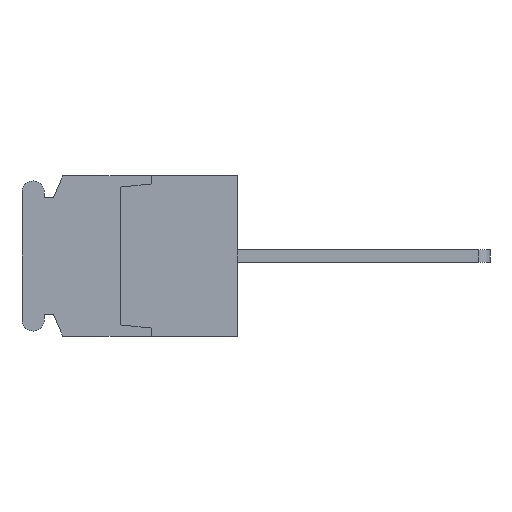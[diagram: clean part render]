
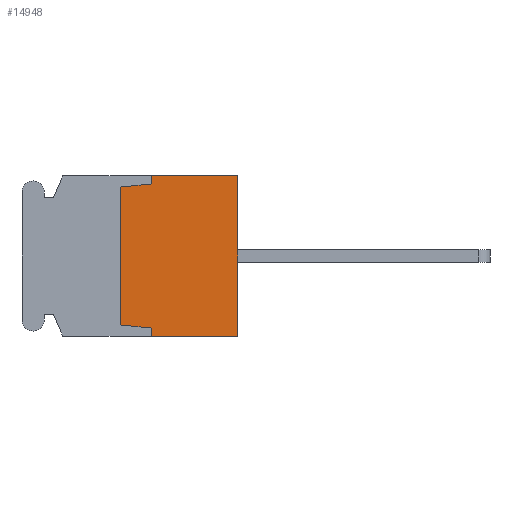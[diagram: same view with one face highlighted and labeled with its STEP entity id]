
A CAD part, left-side view. The second image highlights one B-rep face of the part: STEP entity #14948.
In plain terms, the highlighted planar face has unit normal (-1, 0, 0).
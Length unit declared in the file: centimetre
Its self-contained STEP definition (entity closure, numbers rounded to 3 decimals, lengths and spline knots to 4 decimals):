
#1881=VECTOR('',#18351,1.);
#1882=VECTOR('',#18352,1.);
#1883=VECTOR('',#18353,1.);
#1884=VECTOR('',#18354,1.);
#1885=VECTOR('',#18355,1.);
#1886=VECTOR('',#18356,1.);
#1887=VECTOR('',#18357,1.);
#1888=VECTOR('',#18358,1.);
#3545=LINE('',#23118,#1881);
#3546=LINE('',#23121,#1882);
#3547=LINE('',#23123,#1883);
#3548=LINE('',#23125,#1884);
#3549=LINE('',#23127,#1885);
#3550=LINE('',#23129,#1886);
#3551=LINE('',#23131,#1887);
#3552=LINE('',#23133,#1888);
#5117=VERTEX_POINT('',#23119);
#5118=VERTEX_POINT('',#23120);
#5119=VERTEX_POINT('',#23122);
#5120=VERTEX_POINT('',#23124);
#5121=VERTEX_POINT('',#23126);
#5122=VERTEX_POINT('',#23128);
#5123=VERTEX_POINT('',#23130);
#5124=VERTEX_POINT('',#23132);
#7424=EDGE_CURVE('',#5117,#5118,#3545,.T.);
#7425=EDGE_CURVE('',#5119,#5117,#3546,.T.);
#7426=EDGE_CURVE('',#5120,#5119,#3547,.T.);
#7427=EDGE_CURVE('',#5121,#5120,#3548,.T.);
#7428=EDGE_CURVE('',#5122,#5121,#3549,.T.);
#7429=EDGE_CURVE('',#5123,#5122,#3550,.T.);
#7430=EDGE_CURVE('',#5124,#5123,#3551,.T.);
#7431=EDGE_CURVE('',#5118,#5124,#3552,.T.);
#11268=ORIENTED_EDGE('',*,*,#7424,.F.);
#11269=ORIENTED_EDGE('',*,*,#7425,.F.);
#11270=ORIENTED_EDGE('',*,*,#7426,.F.);
#11271=ORIENTED_EDGE('',*,*,#7427,.F.);
#11272=ORIENTED_EDGE('',*,*,#7428,.F.);
#11273=ORIENTED_EDGE('',*,*,#7429,.F.);
#11274=ORIENTED_EDGE('',*,*,#7430,.F.);
#11275=ORIENTED_EDGE('',*,*,#7431,.F.);
#13152=EDGE_LOOP('',(#11268,#11269,#11270,#11271,#11272,#11273,#11274,#11275));
#14088=FACE_BOUND('',#13152,.T.);
#14948=ADVANCED_FACE('',(#14088),#15632,.F.);
#15632=PLANE('',#25590);
#18350=DIRECTION('',(1.,0.,0.));
#18351=DIRECTION('',(0.,0.,-1.));
#18352=DIRECTION('',(0.,-1.,0.));
#18353=DIRECTION('',(0.,0.,1.));
#18354=DIRECTION('',(0.,-0.995,0.1));
#18355=DIRECTION('',(0.,0.,1.));
#18356=DIRECTION('',(0.,0.995,0.1));
#18357=DIRECTION('',(0.,0.,1.));
#18358=DIRECTION('',(0.,1.,0.));
#23117=CARTESIAN_POINT('',(-1.07,0.4626,0.));
#23118=CARTESIAN_POINT('',(-1.07,0.,0.65));
#23119=CARTESIAN_POINT('',(-1.07,0.,0.65));
#23120=CARTESIAN_POINT('',(-1.07,0.,-0.65));
#23121=CARTESIAN_POINT('',(-1.07,0.7,0.65));
#23122=CARTESIAN_POINT('',(-1.07,0.7,0.65));
#23123=CARTESIAN_POINT('',(-1.07,0.7,0.585));
#23124=CARTESIAN_POINT('',(-1.07,0.7,0.585));
#23125=CARTESIAN_POINT('',(-1.07,0.95,0.56));
#23126=CARTESIAN_POINT('',(-1.07,0.95,0.56));
#23127=CARTESIAN_POINT('',(-1.07,0.95,-0.56));
#23128=CARTESIAN_POINT('',(-1.07,0.95,-0.56));
#23129=CARTESIAN_POINT('',(-1.07,0.7,-0.585));
#23130=CARTESIAN_POINT('',(-1.07,0.7,-0.585));
#23131=CARTESIAN_POINT('',(-1.07,0.7,-0.65));
#23132=CARTESIAN_POINT('',(-1.07,0.7,-0.65));
#23133=CARTESIAN_POINT('',(-1.07,0.,-0.65));
#25590=AXIS2_PLACEMENT_3D('',#23117,#18350,$);
